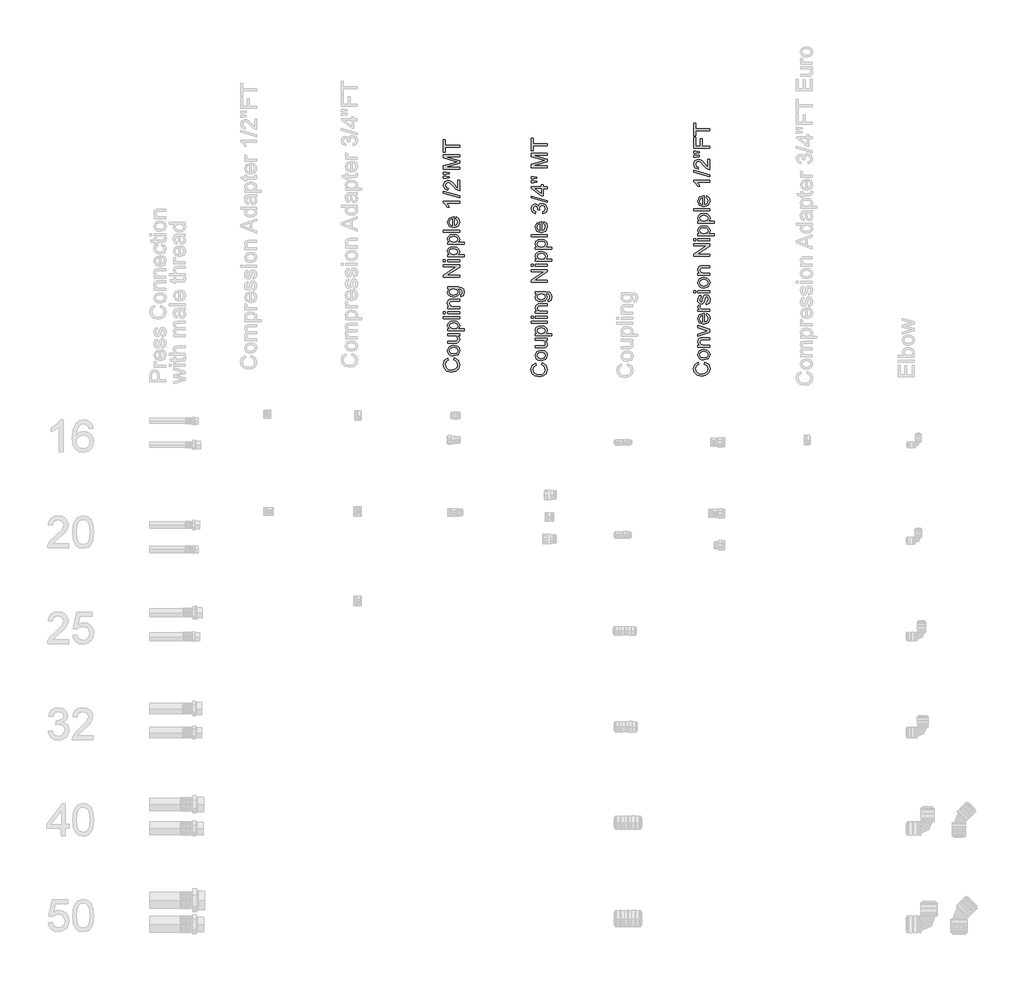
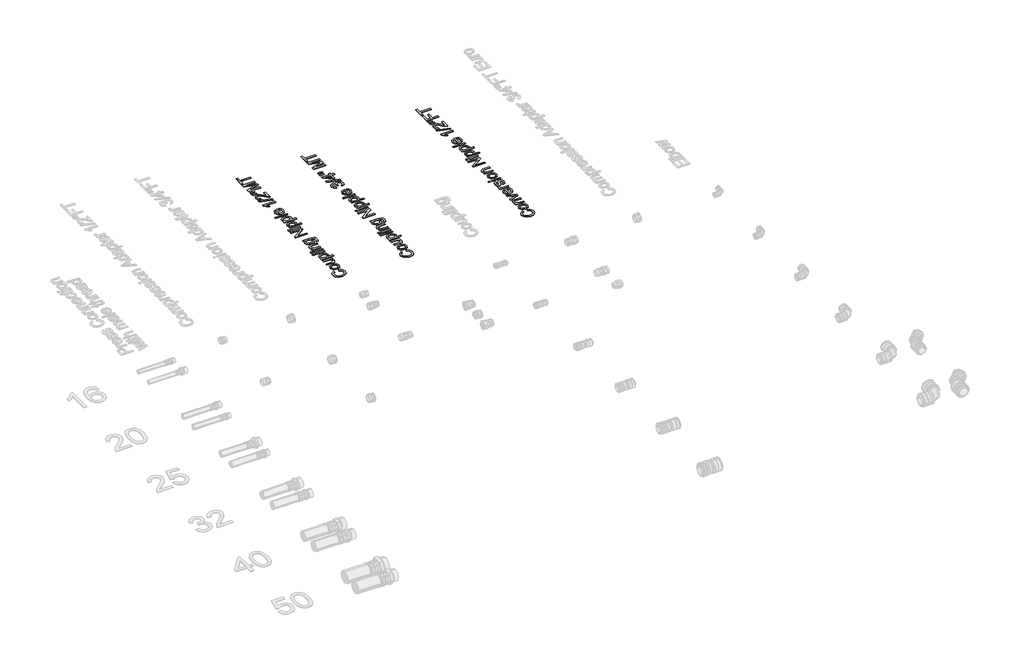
# One storey, part 24 of 26: 3 proxies.
"""IFC4 building model written with IfcOpenShell, lengths in millimetres."""

from ifc_helpers import new_model, si_unit, origin, origin_with_axes, place, context, project, spatial, polyline, outline, extrude, element, save

model = new_model("IFC4")

# Units and contexts
model_context = context("Model", 3, world=origin())
ifc_project = project(units=[si_unit("LENGTHUNIT", "METRE", prefix="MILLI")], contexts=[model_context])

# Site, building, storey
site = spatial("IfcSite", under=ifc_project)
building = spatial("IfcBuilding", under=site)
storey = spatial("IfcBuildingStorey", under=building, Name="Superpipe UFH", Elevation=0.0)

# Proxies
placement = place(None, origin())
element("IfcBuildingElementProxy", 1, Name="50mm Arial", ObjectType="50mm Arial", at=placement, inside=storey, context=model_context, shape_type="SweptSolid", body=[
    extrude(outline(polyline([(26667.4647613, 32461.4412402), (26669.083442, 32467.7197596), (26681.744714, 32460.2762805), (26686.1041157, 32447.1306306), (26682.8054405, 32434.0646884), (26673.2527713, 32426.4004801), (26659.8250785, 32423.7701239), (26646.1766565, 32426.7438367), (26637.3290945, 32435.1989912), (26634.3063308, 32447.2655206), (26638.2181427, 32459.8409535), (26649.230077, 32466.9349446), (26650.7261305, 32460.6564253), (26643.00674, 32455.5060773), (26640.5848502, 32447.020266), (26643.2703887, 32437.1978167), (26650.4808758, 32431.6489299), (26659.8128158, 32430.0486433), (26670.6285464, 32431.9432355), (26677.5385966, 32437.8416102), (26679.8255963, 32446.5052312), (26676.7108621, 32456.1130826), (26667.4647613, 32461.4412402)])), origin_with_axes(), (0.0, 0.0, 1.0), 2.0),
    extrude(outline(polyline([(26666.8761501, 32473.998279), (26657.9826028, 32475.3563766), (26651.7316746, 32479.4306697), (26647.6481845, 32490.4916551), (26652.6207228, 32502.3558494), (26666.3611153, 32506.9605057), (26677.5324652, 32504.924892), (26683.8539042, 32498.9958605), (26686.1041157, 32490.4916551), (26681.1499715, 32478.5538843), (26666.8761501, 32473.998279)]), holes=[polyline([(26666.8638873, 32480.2767983), (26676.5943661, 32483.1830661), (26679.8255963, 32490.4916551), (26676.575972, 32497.7757186), (26666.6676836, 32500.6819863), (26657.157934, 32497.7573245), (26653.9267038, 32490.4916551), (26657.1456713, 32483.1830661), (26666.8638873, 32480.2767983)])]), origin_with_axes(), (0.0, 0.0, 1.0), 2.0),
    extrude(outline(polyline([(26685.3193008, 32537.5682877), (26678.9794677, 32537.5682877), (26684.3229537, 32532.6509317), (26686.1041157, 32526.2375223), (26684.8533169, 32520.3330162), (26681.7140572, 32516.2617888), (26677.0910068, 32514.391722), (26671.2539458, 32514.02384), (26648.4329994, 32514.02384), (26648.4329994, 32520.3023594), (26668.2986271, 32520.3023594), (26674.6997738, 32520.6825041), (26678.4583016, 32523.1657076), (26679.8255963, 32527.8439403), (26678.4276447, 32533.0862587), (26674.6200661, 32536.5504809), (26667.6241768, 32537.5682877), (26648.4329994, 32537.5682877), (26648.4329994, 32543.8468071), (26685.3193008, 32543.8468071), (26685.3193008, 32537.5682877)])), origin_with_axes(), (0.0, 0.0, 1.0), 2.0),
    extrude(outline(polyline([(26699.4459694, 32552.4797713), (26648.4329994, 32552.4797713), (26648.4329994, 32558.7582906), (26654.5888914, 32558.7582906), (26649.3833612, 32563.0992982), (26647.6481845, 32568.9608846), (26650.0762056, 32576.9193985), (26656.9188107, 32582.1187973), (26666.5941072, 32583.8723682), (26676.7660444, 32581.8919368), (26683.6944886, 32576.1407149), (26686.1041157, 32568.2005952), (26684.4915663, 32562.7375476), (26680.4142075, 32558.7582906), (26699.4459694, 32558.7582906), (26699.4459694, 32552.4797713)]), holes=[polyline([(26667.1704557, 32558.7582906), (26676.7353875, 32561.474486), (26679.8255963, 32568.0657051), (26676.625023, 32574.7918143), (26666.7044718, 32577.5938488), (26657.1150145, 32574.8592593), (26653.9267038, 32568.3232225), (26657.3173496, 32561.658427), (26667.1704557, 32558.7582906)])]), origin_with_axes(), (0.0, 0.0, 1.0), 2.0),
    extrude(outline(polyline([(26685.3193008, 32590.9357025), (26635.0911457, 32590.9357025), (26635.0911457, 32597.2142219), (26685.3193008, 32597.2142219), (26685.3193008, 32590.9357025)])), origin_with_axes(), (0.0, 0.0, 1.0), 2.0),
    extrude(outline(polyline([(26641.3696651, 32606.6320009), (26635.0911457, 32606.6320009), (26635.0911457, 32612.9105203), (26641.3696651, 32612.9105203), (26641.3696651, 32606.6320009)])), origin_with_axes(), (0.0, 0.0, 1.0), 2.0),
    extrude(outline(polyline([(26685.3193008, 32606.6320009), (26648.4329994, 32606.6320009), (26648.4329994, 32612.9105203), (26685.3193008, 32612.9105203), (26685.3193008, 32606.6320009)])), origin_with_axes(), (0.0, 0.0, 1.0), 2.0),
    extrude(outline(polyline([(26685.3193008, 32622.3282994), (26648.4329994, 32622.3282994), (26648.4329994, 32628.6068188), (26653.5833473, 32628.6068188), (26649.1319752, 32633.4076788), (26647.6481845, 32639.9621097), (26648.8438009, 32645.8911412), (26651.9830606, 32649.9378431), (26656.5999797, 32651.8201727), (26662.6700326, 32652.1512665), (26685.3193008, 32652.1512665), (26685.3193008, 32645.8727471), (26663.5161612, 32645.8727471), (26657.9611431, 32645.1492458), (26655.0242185, 32642.592466), (26653.9267038, 32638.2821153), (26656.3915132, 32631.470167), (26665.7479786, 32628.6068188), (26685.3193008, 32628.6068188), (26685.3193008, 32622.3282994)])), origin_with_axes(), (0.0, 0.0, 1.0), 2.0),
    extrude(outline(polyline([(26688.4585605, 32659.2146008), (26689.2433754, 32665.4931202), (26692.5543133, 32667.5287339), (26693.9522649, 32673.6233123), (26692.3703723, 32680.0489844), (26687.9312629, 32683.1146677), (26680.6104112, 32683.5438634), (26685.3193008, 32673.7336769), (26683.9489403, 32667.2604866), (26679.837859, 32662.4335682), (26666.6922091, 32658.4297859), (26656.9617303, 32660.2262763), (26650.0762056, 32665.4256751), (26647.6481845, 32673.4271085), (26653.1418889, 32683.5438634), (26648.4329994, 32683.5438634), (26648.4329994, 32689.8223828), (26680.2793174, 32689.8223828), (26692.4746056, 32688.1056001), (26698.1461197, 32682.667078), (26700.2307843, 32673.5006849), (26697.2938597, 32663.0589676), (26688.4585605, 32659.2146008)]), holes=[polyline([(26666.2630134, 32664.7083053), (26675.9812295, 32667.3877124), (26679.0407814, 32674.1138216), (26675.9996236, 32680.827668), (26666.4469544, 32683.5438634), (26657.0843576, 32680.7479602), (26653.9267038, 32674.0157197), (26657.0353067, 32667.4245006), (26666.2630134, 32664.7083053)])]), origin_with_axes(), (0.0, 0.0, 1.0), 2.0),
    extrude(outline(polyline([(26685.3193008, 32719.6453499), (26635.0911457, 32719.6453499), (26635.0911457, 32726.3653276), (26674.8837148, 32752.6075766), (26635.0911457, 32752.6075766), (26635.0911457, 32758.886096), (26685.3193008, 32758.886096), (26685.3193008, 32752.1661182), (26645.5144689, 32725.9238692), (26685.3193008, 32725.9238692), (26685.3193008, 32719.6453499)])), origin_with_axes(), (0.0, 0.0, 1.0), 2.0),
    extrude(outline(polyline([(26685.3193008, 32769.08869), (26648.4329994, 32769.08869), (26648.4329994, 32775.3672094), (26685.3193008, 32775.3672094), (26685.3193008, 32769.08869)])), origin_with_axes(), (0.0, 0.0, 1.0), 2.0),
    extrude(outline(polyline([(26641.3696651, 32769.08869), (26635.0911457, 32769.08869), (26635.0911457, 32775.3672094), (26641.3696651, 32775.3672094), (26641.3696651, 32769.08869)])), origin_with_axes(), (0.0, 0.0, 1.0), 2.0),
    extrude(outline(polyline([(26699.4459694, 32784.7849885), (26648.4329994, 32784.7849885), (26648.4329994, 32791.0635079), (26654.5888914, 32791.0635079), (26649.3833612, 32795.4045154), (26647.6481845, 32801.2661019), (26650.0762056, 32809.2246157), (26656.9188107, 32814.4240146), (26666.5941072, 32816.1775854), (26676.7660444, 32814.197154), (26683.6944886, 32808.4459321), (26686.1041157, 32800.5058124), (26684.4915663, 32795.0427648), (26680.4142075, 32791.0635079), (26699.4459694, 32791.0635079), (26699.4459694, 32784.7849885)]), holes=[polyline([(26667.1704557, 32791.0635079), (26676.7353875, 32793.7797033), (26679.8255963, 32800.3709223), (26676.625023, 32807.0970315), (26666.7044718, 32809.899066), (26657.1150145, 32807.1644765), (26653.9267038, 32800.6284397), (26657.3173496, 32793.9636443), (26667.1704557, 32791.0635079)])]), origin_with_axes(), (0.0, 0.0, 1.0), 2.0),
    extrude(outline(polyline([(26699.4459694, 32823.2409197), (26648.4329994, 32823.2409197), (26648.4329994, 32829.5194391), (26654.5888914, 32829.5194391), (26649.3833612, 32833.8604466), (26647.6481845, 32839.7220331), (26650.0762056, 32847.6805469), (26656.9188107, 32852.8799458), (26666.5941072, 32854.6335166), (26676.7660444, 32852.6530852), (26683.6944886, 32846.9018634), (26686.1041157, 32838.9617436), (26684.4915663, 32833.498696), (26680.4142075, 32829.5194391), (26699.4459694, 32829.5194391), (26699.4459694, 32823.2409197)]), holes=[polyline([(26667.1704557, 32829.5194391), (26676.7353875, 32832.2356345), (26679.8255963, 32838.8268536), (26676.625023, 32845.5529627), (26666.7044718, 32848.3549972), (26657.1150145, 32845.6204077), (26653.9267038, 32839.084371), (26657.3173496, 32832.4195755), (26667.1704557, 32829.5194391)])]), origin_with_axes(), (0.0, 0.0, 1.0), 2.0),
    extrude(outline(polyline([(26685.3193008, 32861.6968509), (26635.0911457, 32861.6968509), (26635.0911457, 32867.9753703), (26685.3193008, 32867.9753703), (26685.3193008, 32861.6968509)])), origin_with_axes(), (0.0, 0.0, 1.0), 2.0),
    extrude(outline(polyline([(26674.3318918, 32903.2184655), (26675.1167068, 32909.3743575), (26683.2223734, 32903.6170043), (26686.1041157, 32892.8932441), (26681.1315774, 32879.8579588), (26667.1827184, 32875.0387046), (26652.7740069, 32879.9070097), (26647.6481845, 32892.5376249), (26652.7617442, 32904.8064894), (26667.1459302, 32909.5705612), (26668.8381874, 32909.533773), (26668.8381874, 32881.317224), (26676.9929049, 32884.9285989), (26679.8255963, 32893.0158715), (26678.5134839, 32899.1717635), (26674.3318918, 32903.2184655)]), holes=[polyline([(26662.559668, 32881.317224), (26662.559668, 32903.2920419), (26656.8697598, 32900.7781816), (26653.9267038, 32892.5130994), (26656.2750173, 32884.7814461), (26662.559668, 32881.317224)])]), origin_with_axes(), (0.0, 0.0, 1.0), 2.0),
    extrude(outline(polyline([(26685.3193008, 32957.4442715), (26685.3193008, 32951.1657522), (26646.1766565, 32951.1657522), (26650.4134308, 32945.2183266), (26653.5833473, 32938.6087134), (26647.6481845, 32938.6087134), (26641.7743353, 32947.8118946), (26635.0911457, 32953.3975696), (26635.0911457, 32957.4442715), (26685.3193008, 32957.4442715)])), origin_with_axes(), (0.0, 0.0, 1.0), 2.0),
    extrude(outline(polyline([(26685.3193008, 32969.2164954), (26635.0911457, 32983.343164), (26635.0911457, 32989.0085467), (26685.3193008, 32974.8818781), (26685.3193008, 32969.2164954)])), origin_with_axes(), (0.0, 0.0, 1.0), 2.0),
    extrude(outline(polyline([(26679.0407814, 33024.15354), (26685.3193008, 33024.15354), (26685.3193008, 32991.1913132), (26680.990556, 32991.8657636), (26674.3257605, 32995.6794736), (26667.0478283, 33003.5398855), (26656.5877169, 33014.3801417), (26649.4753317, 33017.0902057), (26643.7179785, 33014.5334258), (26641.3696651, 33007.8563676), (26643.6627962, 33000.8972665), (26650.0026292, 32998.2546475), (26649.2178143, 32991.9761282), (26638.708652, 32996.7892509), (26635.0911457, 33007.9912577), (26639.1133222, 33019.2300526), (26649.095187, 33023.3687251), (26655.0487439, 33022.2528164), (26661.204636, 33018.5433396), (26669.8069433, 33009.5486248), (26675.8463394, 33002.325875), (26679.0407814, 32999.4931836), (26679.0407814, 33024.15354)])), origin_with_axes(), (0.0, 0.0, 1.0), 2.0),
    extrude(outline(polyline([(26653.1418889, 33044.4851516), (26643.442067, 33042.9890982), (26635.0911457, 33042.9890982), (26635.0911457, 33049.2676175), (26643.442067, 33049.2676175), (26653.1418889, 33047.7960896), (26653.1418889, 33044.4851516)])), origin_with_axes(), (0.0, 0.0, 1.0), 2.0),
    extrude(outline(polyline([(26653.1418889, 33031.964901), (26643.442067, 33030.4320594), (26635.0911457, 33030.4320594), (26635.0911457, 33036.7105788), (26643.442067, 33036.7105788), (26653.1418889, 33035.3371527), (26653.1418889, 33031.964901)])), origin_with_axes(), (0.0, 0.0, 1.0), 2.0),
    extrude(outline(polyline([(26685.3193008, 33057.9005817), (26635.0911457, 33057.9005817), (26635.0911457, 33068.7040496), (26670.4936564, 33078.98022), (26677.8880845, 33081.0526219), (26669.8805197, 33083.2967021), (26635.0911457, 33093.4011942), (26635.0911457, 33104.2046622), (26685.3193008, 33104.2046622), (26685.3193008, 33097.9261428), (26641.3696651, 33097.9261428), (26685.3193008, 33085.3077903), (26685.3193008, 33076.7974535), (26641.3696651, 33064.1791011), (26685.3193008, 33064.1791011), (26685.3193008, 33057.9005817)])), origin_with_axes(), (0.0, 0.0, 1.0), 2.0),
    extrude(outline(polyline([(26685.3193008, 33127.7491098), (26641.3696651, 33127.7491098), (26641.3696651, 33111.2679965), (26635.0911457, 33111.2679965), (26635.0911457, 33150.5087426), (26641.3696651, 33150.5087426), (26641.3696651, 33134.0276292), (26685.3193008, 33134.0276292), (26685.3193008, 33127.7491098)])), origin_with_axes(), (0.0, 0.0, 1.0), 2.0),
])
element("IfcBuildingElementProxy", 2, Name="50mm Arial", ObjectType="50mm Arial", at=placement, inside=storey, context=model_context, shape_type="SweptSolid", body=[
    extrude(outline(polyline([(26941.8824825, 32446.4721905), (26943.5011632, 32452.7507099), (26956.1624352, 32445.3072309), (26960.5218369, 32432.1615809), (26957.2231617, 32419.0956387), (26947.6704925, 32411.4314305), (26934.2427997, 32408.8010742), (26920.5943777, 32411.774787), (26911.7468157, 32420.2299415), (26908.724052, 32432.296471), (26912.6358638, 32444.8719038), (26923.6477982, 32451.965895), (26925.1438517, 32445.6873756), (26917.4244611, 32440.5370277), (26915.0025713, 32432.0512163), (26917.6881099, 32422.228767), (26924.898597, 32416.6798803), (26934.230537, 32415.0795936), (26945.0462676, 32416.9741859), (26951.9563178, 32422.8725605), (26954.2433175, 32431.5361815), (26951.1285833, 32441.144033), (26941.8824825, 32446.4721905)])), origin_with_axes(), (0.0, 0.0, 1.0), 2.0),
    extrude(outline(polyline([(26941.2938713, 32459.0292293), (26932.400324, 32460.387327), (26926.1493958, 32464.4616201), (26922.0659056, 32475.5226054), (26927.0384439, 32487.3867998), (26940.7788365, 32491.9914561), (26951.9501864, 32489.9558424), (26958.2716253, 32484.0268109), (26960.5218369, 32475.5226054), (26955.5676927, 32463.5848347), (26941.2938713, 32459.0292293)]), holes=[polyline([(26941.2816085, 32465.3077487), (26951.0120873, 32468.2140164), (26954.2433175, 32475.5226054), (26950.9936932, 32482.8066689), (26941.0854048, 32485.7129367), (26931.5756552, 32482.7882748), (26928.344425, 32475.5226054), (26931.5633925, 32468.2140164), (26941.2816085, 32465.3077487)])]), origin_with_axes(), (0.0, 0.0, 1.0), 2.0),
    extrude(outline(polyline([(26959.737022, 32522.5992381), (26953.3971889, 32522.5992381), (26958.7406749, 32517.6818821), (26960.5218369, 32511.2684726), (26959.2710381, 32505.3639666), (26956.1317784, 32501.2927392), (26951.508728, 32499.4226724), (26945.671667, 32499.0547904), (26922.8507206, 32499.0547904), (26922.8507206, 32505.3333098), (26942.7163483, 32505.3333098), (26949.117495, 32505.7134545), (26952.8760227, 32508.196658), (26954.2433175, 32512.8748907), (26952.8453659, 32518.1172091), (26949.0377873, 32521.5814312), (26942.041898, 32522.5992381), (26922.8507206, 32522.5992381), (26922.8507206, 32528.8777574), (26959.737022, 32528.8777574), (26959.737022, 32522.5992381)])), origin_with_axes(), (0.0, 0.0, 1.0), 2.0),
    extrude(outline(polyline([(26973.8636906, 32537.5107216), (26922.8507206, 32537.5107216), (26922.8507206, 32543.789241), (26929.0066126, 32543.789241), (26923.8010824, 32548.1302485), (26922.0659056, 32553.991835), (26924.4939268, 32561.9503488), (26931.3365319, 32567.1497477), (26941.0118284, 32568.9033185), (26951.1837656, 32566.9228871), (26958.1122098, 32561.1716653), (26960.5218369, 32553.2315455), (26958.9092875, 32547.7684979), (26954.8319287, 32543.789241), (26973.8636906, 32543.789241), (26973.8636906, 32537.5107216)]), holes=[polyline([(26941.5881769, 32543.789241), (26951.1531087, 32546.5054364), (26954.2433175, 32553.0966555), (26951.0427441, 32559.8227646), (26941.122193, 32562.6247991), (26931.5327357, 32559.8902096), (26928.344425, 32553.3541729), (26931.7350708, 32546.6893774), (26941.5881769, 32543.789241)])]), origin_with_axes(), (0.0, 0.0, 1.0), 2.0),
    extrude(outline(polyline([(26959.737022, 32575.9666528), (26909.5088669, 32575.9666528), (26909.5088669, 32582.2451722), (26959.737022, 32582.2451722), (26959.737022, 32575.9666528)])), origin_with_axes(), (0.0, 0.0, 1.0), 2.0),
    extrude(outline(polyline([(26915.7873863, 32591.6629513), (26909.5088669, 32591.6629513), (26909.5088669, 32597.9414707), (26915.7873863, 32597.9414707), (26915.7873863, 32591.6629513)])), origin_with_axes(), (0.0, 0.0, 1.0), 2.0),
    extrude(outline(polyline([(26959.737022, 32591.6629513), (26922.8507206, 32591.6629513), (26922.8507206, 32597.9414707), (26959.737022, 32597.9414707), (26959.737022, 32591.6629513)])), origin_with_axes(), (0.0, 0.0, 1.0), 2.0),
    extrude(outline(polyline([(26959.737022, 32607.3592498), (26922.8507206, 32607.3592498), (26922.8507206, 32613.6377691), (26928.0010685, 32613.6377691), (26923.5496964, 32618.4386292), (26922.0659056, 32624.9930601), (26923.2615221, 32630.9220915), (26926.4007818, 32634.9687935), (26931.0177009, 32636.851123), (26937.0877538, 32637.1822168), (26959.737022, 32637.1822168), (26959.737022, 32630.9036974), (26937.9338824, 32630.9036974), (26932.3788642, 32630.1801962), (26929.4419396, 32627.6234163), (26928.344425, 32623.3130656), (26930.8092344, 32616.5011173), (26940.1656998, 32613.6377691), (26959.737022, 32613.6377691), (26959.737022, 32607.3592498)])), origin_with_axes(), (0.0, 0.0, 1.0), 2.0),
    extrude(outline(polyline([(26962.8762816, 32644.2455511), (26963.6610966, 32650.5240705), (26966.9720345, 32652.5596842), (26968.3699861, 32658.6542626), (26966.7880935, 32665.0799348), (26962.3489841, 32668.1456181), (26955.0281324, 32668.5748137), (26959.737022, 32658.7646272), (26958.3666615, 32652.2914369), (26954.2555802, 32647.4645186), (26941.1099303, 32643.4607362), (26931.3794515, 32645.2572266), (26924.4939268, 32650.4566255), (26922.0659056, 32658.4580589), (26927.5596101, 32668.5748137), (26922.8507206, 32668.5748137), (26922.8507206, 32674.8533331), (26954.6970386, 32674.8533331), (26966.8923268, 32673.1365505), (26972.5638409, 32667.6980283), (26974.6485055, 32658.5316353), (26971.7115809, 32648.089918), (26962.8762816, 32644.2455511)]), holes=[polyline([(26940.6807346, 32649.7392556), (26950.3989506, 32652.4186628), (26953.4585026, 32659.1447719), (26950.4173447, 32665.8586184), (26940.8646756, 32668.5748137), (26931.5020788, 32665.7789106), (26928.344425, 32659.0466701), (26931.4530279, 32652.455451), (26940.6807346, 32649.7392556)])]), origin_with_axes(), (0.0, 0.0, 1.0), 2.0),
    extrude(outline(polyline([(26959.737022, 32704.6763002), (26909.5088669, 32704.6763002), (26909.5088669, 32711.396278), (26949.301436, 32737.638527), (26909.5088669, 32737.638527), (26909.5088669, 32743.9170464), (26959.737022, 32743.9170464), (26959.737022, 32737.1970686), (26919.9321901, 32710.9548196), (26959.737022, 32710.9548196), (26959.737022, 32704.6763002)])), origin_with_axes(), (0.0, 0.0, 1.0), 2.0),
    extrude(outline(polyline([(26959.737022, 32754.1196404), (26922.8507206, 32754.1196404), (26922.8507206, 32760.3981597), (26959.737022, 32760.3981597), (26959.737022, 32754.1196404)])), origin_with_axes(), (0.0, 0.0, 1.0), 2.0),
    extrude(outline(polyline([(26915.7873863, 32754.1196404), (26909.5088669, 32754.1196404), (26909.5088669, 32760.3981597), (26915.7873863, 32760.3981597), (26915.7873863, 32754.1196404)])), origin_with_axes(), (0.0, 0.0, 1.0), 2.0),
    extrude(outline(polyline([(26973.8636906, 32769.8159388), (26922.8507206, 32769.8159388), (26922.8507206, 32776.0944582), (26929.0066126, 32776.0944582), (26923.8010824, 32780.4354657), (26922.0659056, 32786.2970522), (26924.4939268, 32794.255566), (26931.3365319, 32799.4549649), (26941.0118284, 32801.2085357), (26951.1837656, 32799.2281043), (26958.1122098, 32793.4768825), (26960.5218369, 32785.5367627), (26958.9092875, 32780.0737151), (26954.8319287, 32776.0944582), (26973.8636906, 32776.0944582), (26973.8636906, 32769.8159388)]), holes=[polyline([(26941.5881769, 32776.0944582), (26951.1531087, 32778.8106536), (26954.2433175, 32785.4018727), (26951.0427441, 32792.1279818), (26941.122193, 32794.9300164), (26931.5327357, 32792.1954269), (26928.344425, 32785.6593901), (26931.7350708, 32778.9945946), (26941.5881769, 32776.0944582)])]), origin_with_axes(), (0.0, 0.0, 1.0), 2.0),
    extrude(outline(polyline([(26973.8636906, 32808.2718701), (26922.8507206, 32808.2718701), (26922.8507206, 32814.5503894), (26929.0066126, 32814.5503894), (26923.8010824, 32818.891397), (26922.0659056, 32824.7529834), (26924.4939268, 32832.7114973), (26931.3365319, 32837.9108961), (26941.0118284, 32839.664467), (26951.1837656, 32837.6840356), (26958.1122098, 32831.9328137), (26960.5218369, 32823.992694), (26958.9092875, 32818.5296463), (26954.8319287, 32814.5503894), (26973.8636906, 32814.5503894), (26973.8636906, 32808.2718701)]), holes=[polyline([(26941.5881769, 32814.5503894), (26951.1531087, 32817.2665848), (26954.2433175, 32823.8578039), (26951.0427441, 32830.5839131), (26941.122193, 32833.3859476), (26931.5327357, 32830.6513581), (26928.344425, 32824.1153213), (26931.7350708, 32817.4505258), (26941.5881769, 32814.5503894)])]), origin_with_axes(), (0.0, 0.0, 1.0), 2.0),
    extrude(outline(polyline([(26959.737022, 32846.7278013), (26909.5088669, 32846.7278013), (26909.5088669, 32853.0063207), (26959.737022, 32853.0063207), (26959.737022, 32846.7278013)])), origin_with_axes(), (0.0, 0.0, 1.0), 2.0),
    extrude(outline(polyline([(26948.749613, 32888.2494158), (26949.534428, 32894.4053079), (26957.6400946, 32888.6479546), (26960.5218369, 32877.9241945), (26955.5492986, 32864.8889091), (26941.6004396, 32860.069655), (26927.1917281, 32864.93796), (26922.0659056, 32877.5685752), (26927.1794654, 32889.8374397), (26941.5636514, 32894.6015116), (26943.2559086, 32894.5647234), (26943.2559086, 32866.3481744), (26951.4106261, 32869.9595493), (26954.2433175, 32878.0468218), (26952.931205, 32884.2027139), (26948.749613, 32888.2494158)]), holes=[polyline([(26936.9773892, 32866.3481744), (26936.9773892, 32888.3229922), (26931.287481, 32885.8091319), (26928.344425, 32877.5440497), (26930.6927384, 32869.8123965), (26936.9773892, 32866.3481744)])]), origin_with_axes(), (0.0, 0.0, 1.0), 2.0),
    extrude(outline(polyline([(26946.3951683, 32918.9307742), (26945.6103533, 32925.2092936), (26952.2199665, 32928.6735157), (26954.2433175, 32935.1543702), (26951.4596771, 32942.7817902), (26944.568021, 32945.6144816), (26938.0749038, 32942.8063157), (26935.5058612, 32935.669405), (26936.1925743, 32931.2670838), (26929.9140549, 32931.9660596), (26928.1850095, 32940.0962517), (26922.6422541, 32943.2600368), (26917.7310295, 32940.9669057), (26915.7873863, 32935.0562683), (26917.7494236, 32929.0720545), (26923.6355355, 32925.9941085), (26922.8507206, 32919.7155891), (26913.0037458, 32924.8536743), (26909.5088669, 32934.8355391), (26911.2317809, 32942.4077769), (26915.9406704, 32947.7052776), (26922.2743721, 32949.5385562), (26928.0623822, 32947.7972481), (26932.2194487, 32942.6469002), (26936.5114053, 32949.4895053), (26944.6783856, 32951.893001), (26955.9110492, 32947.0860096), (26960.5218369, 32934.933641), (26956.5854995, 32923.9217066), (26946.3951683, 32918.9307742)])), origin_with_axes(), (0.0, 0.0, 1.0), 2.0),
    extrude(outline(polyline([(26959.737022, 32954.2474457), (26909.5088669, 32968.3741144), (26909.5088669, 32974.0394971), (26959.737022, 32959.9128285), (26959.737022, 32954.2474457)])), origin_with_axes(), (0.0, 0.0, 1.0), 2.0),
    extrude(outline(polyline([(26959.737022, 32997.4122665), (26947.9647981, 32997.4122665), (26947.9647981, 32974.6526337), (26941.6862787, 32974.6526337), (26910.2936818, 32998.9818963), (26910.2936818, 33003.6907859), (26941.6862787, 33003.6907859), (26941.6862787, 33009.9693053), (26947.9647981, 33009.9693053), (26947.9647981, 33003.6907859), (26959.737022, 33003.6907859), (26959.737022, 32997.4122665)]), holes=[polyline([(26941.6862787, 32997.4122665), (26922.2866348, 32997.4122665), (26941.6862787, 32982.3781556), (26941.6862787, 32997.4122665)])]), origin_with_axes(), (0.0, 0.0, 1.0), 2.0),
    extrude(outline(polyline([(26927.5596101, 33016.9958514), (26917.8597882, 33015.4630097), (26909.5088669, 33015.4630097), (26909.5088669, 33021.7415291), (26917.8597882, 33021.7415291), (26927.5596101, 33020.368103), (26927.5596101, 33016.9958514)])), origin_with_axes(), (0.0, 0.0, 1.0), 2.0),
    extrude(outline(polyline([(26927.5596101, 33029.5161019), (26917.8597882, 33028.0200485), (26909.5088669, 33028.0200485), (26909.5088669, 33034.2985679), (26917.8597882, 33034.2985679), (26927.5596101, 33032.8270399), (26927.5596101, 33029.5161019)])), origin_with_axes(), (0.0, 0.0, 1.0), 2.0),
    extrude(outline(polyline([(26959.737022, 33062.5519051), (26909.5088669, 33062.5519051), (26909.5088669, 33073.355373), (26944.9113775, 33083.6315434), (26952.3058056, 33085.7039453), (26944.2982409, 33087.9480255), (26909.5088669, 33098.0525177), (26909.5088669, 33108.8559856), (26959.737022, 33108.8559856), (26959.737022, 33102.5774662), (26915.7873863, 33102.5774662), (26959.737022, 33089.9591138), (26959.737022, 33081.4487769), (26915.7873863, 33068.8304245), (26959.737022, 33068.8304245), (26959.737022, 33062.5519051)])), origin_with_axes(), (0.0, 0.0, 1.0), 2.0),
    extrude(outline(polyline([(26959.737022, 33132.4004333), (26915.7873863, 33132.4004333), (26915.7873863, 33115.9193199), (26909.5088669, 33115.9193199), (26909.5088669, 33155.160066), (26915.7873863, 33155.160066), (26915.7873863, 33138.6789527), (26959.737022, 33138.6789527), (26959.737022, 33132.4004333)])), origin_with_axes(), (0.0, 0.0, 1.0), 2.0),
])
element("IfcBuildingElementProxy", 3, Name="50mm Arial", ObjectType="50mm Arial", at=placement, inside=storey, context=model_context, shape_type="SweptSolid", body=[
    extrude(outline(polyline([(27450.4431051, 32448.8322815), (27452.0617859, 32455.1108008), (27464.7230579, 32447.6673218), (27469.0824595, 32434.5216718), (27465.7837843, 32421.4557296), (27456.2311151, 32413.7915214), (27442.8034223, 32411.1611651), (27429.1550003, 32414.1348779), (27420.3074383, 32422.5900325), (27417.2846746, 32434.6565619), (27421.1964865, 32447.2319948), (27432.2084209, 32454.3259859), (27433.7044743, 32448.0474665), (27425.9850838, 32442.8971186), (27423.563194, 32434.4113072), (27426.2487325, 32424.588858), (27433.4592196, 32419.0399712), (27442.7911596, 32417.4396845), (27453.6068902, 32419.3342768), (27460.5169404, 32425.2326515), (27462.8039401, 32433.8962724), (27459.6892059, 32443.5041239), (27450.4431051, 32448.8322815)])), origin_with_axes(), (0.0, 0.0, 1.0), 2.0),
    extrude(outline(polyline([(27449.8544939, 32461.3893202), (27440.9609467, 32462.7474179), (27434.7100184, 32466.821711), (27430.6265283, 32477.8826963), (27435.5990666, 32489.7468907), (27449.3394591, 32494.351547), (27460.510809, 32492.3159333), (27466.832248, 32486.3869018), (27469.0824595, 32477.8826963), (27464.1283153, 32465.9449256), (27449.8544939, 32461.3893202)]), holes=[polyline([(27449.8422312, 32467.6678396), (27459.5727099, 32470.5741074), (27462.8039401, 32477.8826963), (27459.5543158, 32485.1667598), (27449.6460274, 32488.0730276), (27440.1362779, 32485.1483657), (27436.9050477, 32477.8826963), (27440.1240151, 32470.5741074), (27449.8422312, 32467.6678396)])]), origin_with_axes(), (0.0, 0.0, 1.0), 2.0),
    extrude(outline(polyline([(27468.2976446, 32501.4148813), (27431.4113432, 32501.4148813), (27431.4113432, 32507.6934007), (27436.5616911, 32507.6934007), (27432.110319, 32512.4942607), (27430.6265283, 32519.0486916), (27431.8221448, 32524.9777231), (27434.9614045, 32529.024425), (27439.5783235, 32530.9067546), (27445.6483764, 32531.2378484), (27468.2976446, 32531.2378484), (27468.2976446, 32524.959329), (27446.494505, 32524.959329), (27440.9394869, 32524.2358277), (27438.0025623, 32521.6790479), (27436.9050477, 32517.3686972), (27439.369857, 32510.5567489), (27448.7263224, 32507.6934007), (27468.2976446, 32507.6934007), (27468.2976446, 32501.4148813)])), origin_with_axes(), (0.0, 0.0, 1.0), 2.0),
    extrude(outline(polyline([(27468.2976446, 32548.9207096), (27431.4113432, 32535.9467379), (27431.4113432, 32542.5931393), (27453.5087884, 32550.4535513), (27460.9400047, 32552.8202588), (27453.9257213, 32555.1379153), (27431.4113432, 32563.0473782), (27431.4113432, 32569.6937796), (27468.2976446, 32556.8792234), (27468.2976446, 32548.9207096)])), origin_with_axes(), (0.0, 0.0, 1.0), 2.0),
    extrude(outline(polyline([(27457.3102357, 32601.0128001), (27458.0950506, 32607.1686922), (27466.2007172, 32601.411339), (27469.0824595, 32590.6875788), (27464.1099212, 32577.6522934), (27450.1610622, 32572.8330393), (27435.7523507, 32577.7013444), (27430.6265283, 32590.3319595), (27435.740088, 32602.6008241), (27450.124274, 32607.3648959), (27451.8165312, 32607.3281077), (27451.8165312, 32579.1115587), (27459.9712488, 32582.7229336), (27462.8039401, 32590.8102061), (27461.4918277, 32596.9660982), (27457.3102357, 32601.0128001)]), holes=[polyline([(27445.5380118, 32579.1115587), (27445.5380118, 32601.0863765), (27439.8481036, 32598.5725162), (27436.9050477, 32590.3074341), (27439.2533611, 32582.5757808), (27445.5380118, 32579.1115587)])]), origin_with_axes(), (0.0, 0.0, 1.0), 2.0),
    extrude(outline(polyline([(27468.2976446, 32613.6434153), (27431.4113432, 32613.6434153), (27431.4113432, 32619.1371198), (27436.8682595, 32619.1371198), (27431.8405389, 32623.0366689), (27430.6265283, 32626.9607435), (27432.5640401, 32633.2637884), (27438.1926346, 32631.166861), (27436.9050477, 32626.7522771), (27438.1435837, 32623.2022158), (27441.577149, 32620.9397415), (27448.9102634, 32619.9219347), (27468.2976446, 32619.9219347), (27468.2976446, 32613.6434153)])), origin_with_axes(), (0.0, 0.0, 1.0), 2.0),
    extrude(outline(polyline([(27457.3102357, 32634.8334182), (27456.5254207, 32641.1119376), (27461.1852593, 32644.0182054), (27462.8039401, 32650.6768695), (27461.3201494, 32657.0780162), (27457.8375332, 32659.1626808), (27455.0171046, 32657.0657535), (27453.2267455, 32650.6032931), (27450.1549309, 32641.1487258), (27446.5680814, 32637.0223161), (27441.5035726, 32635.6182331), (27436.8253399, 32636.7464046), (27433.2507532, 32639.8243506), (27431.3929491, 32643.8158703), (27430.6265283, 32649.2176042), (27431.858933, 32656.857287), (27435.1943964, 32661.7133293), (27440.8291223, 32663.8715704), (27441.6139372, 32657.593051), (27438.1497151, 32655.2324748), (27436.9050477, 32649.7081136), (27438.0945328, 32643.6993743), (27440.8659105, 32641.8967525), (27442.6930577, 32642.6447792), (27444.0787466, 32644.9869613), (27445.4153845, 32650.3948266), (27448.3707032, 32659.6102706), (27451.7184293, 32663.8899645), (27457.1753456, 32665.4412002), (27463.1840849, 32663.6201843), (27467.5434865, 32658.3656032), (27469.0824595, 32650.5910303), (27466.1148781, 32639.6404096), (27457.3102357, 32634.8334182)])), origin_with_axes(), (0.0, 0.0, 1.0), 2.0),
    extrude(outline(polyline([(27468.2976446, 32672.5045345), (27431.4113432, 32672.5045345), (27431.4113432, 32678.7830539), (27468.2976446, 32678.7830539), (27468.2976446, 32672.5045345)])), origin_with_axes(), (0.0, 0.0, 1.0), 2.0),
    extrude(outline(polyline([(27424.3480089, 32672.5045345), (27418.0694895, 32672.5045345), (27418.0694895, 32678.7830539), (27424.3480089, 32678.7830539), (27424.3480089, 32672.5045345)])), origin_with_axes(), (0.0, 0.0, 1.0), 2.0),
    extrude(outline(polyline([(27449.8544939, 32686.6312031), (27440.9609467, 32687.9893008), (27434.7100184, 32692.0635939), (27430.6265283, 32703.1245793), (27435.5990666, 32714.9887736), (27449.3394591, 32719.5934299), (27460.510809, 32717.5578162), (27466.832248, 32711.6287847), (27469.0824595, 32703.1245793), (27464.1283153, 32691.1868085), (27449.8544939, 32686.6312031)]), holes=[polyline([(27449.8422312, 32692.9097225), (27459.5727099, 32695.8159903), (27462.8039401, 32703.1245793), (27459.5543158, 32710.4086428), (27449.6460274, 32713.3149105), (27440.1362779, 32710.3902487), (27436.9050477, 32703.1245793), (27440.1240151, 32695.8159903), (27449.8422312, 32692.9097225)])]), origin_with_axes(), (0.0, 0.0, 1.0), 2.0),
    extrude(outline(polyline([(27468.2976446, 32726.6567642), (27431.4113432, 32726.6567642), (27431.4113432, 32732.9352836), (27436.5616911, 32732.9352836), (27432.110319, 32737.7361436), (27430.6265283, 32744.2905745), (27431.8221448, 32750.219606), (27434.9614045, 32754.2663079), (27439.5783235, 32756.1486375), (27445.6483764, 32756.4797313), (27468.2976446, 32756.4797313), (27468.2976446, 32750.2012119), (27446.494505, 32750.2012119), (27440.9394869, 32749.4777106), (27438.0025623, 32746.9209308), (27436.9050477, 32742.6105801), (27439.369857, 32735.7986318), (27448.7263224, 32732.9352836), (27468.2976446, 32732.9352836), (27468.2976446, 32726.6567642)])), origin_with_axes(), (0.0, 0.0, 1.0), 2.0),
    extrude(outline(polyline([(27468.2976446, 32785.5178834), (27418.0694895, 32785.5178834), (27418.0694895, 32792.2378612), (27457.8620587, 32818.4801102), (27418.0694895, 32818.4801102), (27418.0694895, 32824.7586296), (27468.2976446, 32824.7586296), (27468.2976446, 32818.0386518), (27428.4928127, 32791.7964028), (27468.2976446, 32791.7964028), (27468.2976446, 32785.5178834)])), origin_with_axes(), (0.0, 0.0, 1.0), 2.0),
    extrude(outline(polyline([(27468.2976446, 32834.9612236), (27431.4113432, 32834.9612236), (27431.4113432, 32841.239743), (27468.2976446, 32841.239743), (27468.2976446, 32834.9612236)])), origin_with_axes(), (0.0, 0.0, 1.0), 2.0),
    extrude(outline(polyline([(27424.3480089, 32834.9612236), (27418.0694895, 32834.9612236), (27418.0694895, 32841.239743), (27424.3480089, 32841.239743), (27424.3480089, 32834.9612236)])), origin_with_axes(), (0.0, 0.0, 1.0), 2.0),
    extrude(outline(polyline([(27482.4243132, 32850.6575221), (27431.4113432, 32850.6575221), (27431.4113432, 32856.9360414), (27437.5672353, 32856.9360414), (27432.361705, 32861.277049), (27430.6265283, 32867.1386354), (27433.0545494, 32875.0971493), (27439.8971546, 32880.2965481), (27449.572451, 32882.050119), (27459.7443882, 32880.0696876), (27466.6728324, 32874.3184657), (27469.0824595, 32866.378346), (27467.4699101, 32860.9152983), (27463.3925513, 32856.9360414), (27482.4243132, 32856.9360414), (27482.4243132, 32850.6575221)]), holes=[polyline([(27450.1487995, 32856.9360414), (27459.7137314, 32859.6522368), (27462.8039401, 32866.2434559), (27459.6033668, 32872.9695651), (27449.6828156, 32875.7715996), (27440.0933583, 32873.0370101), (27436.9050477, 32866.5009733), (27440.2956934, 32859.8361778), (27450.1487995, 32856.9360414)])]), origin_with_axes(), (0.0, 0.0, 1.0), 2.0),
    extrude(outline(polyline([(27482.4243132, 32889.1134533), (27431.4113432, 32889.1134533), (27431.4113432, 32895.3919727), (27437.5672353, 32895.3919727), (27432.361705, 32899.7329802), (27430.6265283, 32905.5945667), (27433.0545494, 32913.5530805), (27439.8971546, 32918.7524794), (27449.572451, 32920.5060502), (27459.7443882, 32918.5256188), (27466.6728324, 32912.7743969), (27469.0824595, 32904.8342772), (27467.4699101, 32899.3712296), (27463.3925513, 32895.3919727), (27482.4243132, 32895.3919727), (27482.4243132, 32889.1134533)]), holes=[polyline([(27450.1487995, 32895.3919727), (27459.7137314, 32898.1081681), (27462.8039401, 32904.6993871), (27459.6033668, 32911.4254963), (27449.6828156, 32914.2275308), (27440.0933583, 32911.4929413), (27436.9050477, 32904.9569045), (27440.2956934, 32898.2921091), (27450.1487995, 32895.3919727)])]), origin_with_axes(), (0.0, 0.0, 1.0), 2.0),
    extrude(outline(polyline([(27468.2976446, 32927.5693845), (27418.0694895, 32927.5693845), (27418.0694895, 32933.8479039), (27468.2976446, 32933.8479039), (27468.2976446, 32927.5693845)])), origin_with_axes(), (0.0, 0.0, 1.0), 2.0),
    extrude(outline(polyline([(27457.3102357, 32969.090999), (27458.0950506, 32975.2468911), (27466.2007172, 32969.4895379), (27469.0824595, 32958.7657777), (27464.1099212, 32945.7304923), (27450.1610622, 32940.9112382), (27435.7523507, 32945.7795433), (27430.6265283, 32958.4101584), (27435.740088, 32970.679023), (27450.124274, 32975.4430948), (27451.8165312, 32975.4063066), (27451.8165312, 32947.1897576), (27459.9712488, 32950.8011325), (27462.8039401, 32958.888405), (27461.4918277, 32965.0442971), (27457.3102357, 32969.090999)]), holes=[polyline([(27445.5380118, 32947.1897576), (27445.5380118, 32969.1645754), (27439.8481036, 32966.6507151), (27436.9050477, 32958.385633), (27439.2533611, 32950.6539797), (27445.5380118, 32947.1897576)])]), origin_with_axes(), (0.0, 0.0, 1.0), 2.0),
    extrude(outline(polyline([(27468.2976446, 33023.3168051), (27468.2976446, 33017.0382857), (27429.1550003, 33017.0382857), (27433.3917746, 33011.0908601), (27436.5616911, 33004.481247), (27430.6265283, 33004.481247), (27424.7526791, 33013.6844282), (27418.0694895, 33019.2701032), (27418.0694895, 33023.3168051), (27468.2976446, 33023.3168051)])), origin_with_axes(), (0.0, 0.0, 1.0), 2.0),
    extrude(outline(polyline([(27468.2976446, 33035.089029), (27418.0694895, 33049.2156976), (27418.0694895, 33054.8810803), (27468.2976446, 33040.7544117), (27468.2976446, 33035.089029)])), origin_with_axes(), (0.0, 0.0, 1.0), 2.0),
    extrude(outline(polyline([(27462.0191252, 33090.0260736), (27468.2976446, 33090.0260736), (27468.2976446, 33057.0638468), (27463.9688998, 33057.7382971), (27457.3041043, 33061.5520072), (27450.0261722, 33069.4124191), (27439.5660608, 33080.2526752), (27432.4536755, 33082.9627393), (27426.6963223, 33080.4059594), (27424.3480089, 33073.7289012), (27426.64114, 33066.7698001), (27432.980973, 33064.1271811), (27432.1961581, 33057.8486617), (27421.6869958, 33062.6617845), (27418.0694895, 33073.8637913), (27422.091666, 33085.1025862), (27432.0735308, 33089.2412587), (27438.0270877, 33088.1253499), (27444.1829798, 33084.4158732), (27452.7852871, 33075.4211584), (27458.8246832, 33068.1984085), (27462.0191252, 33065.3657172), (27462.0191252, 33090.0260736)])), origin_with_axes(), (0.0, 0.0, 1.0), 2.0),
    extrude(outline(polyline([(27436.1202327, 33110.3576852), (27426.4204108, 33108.8616317), (27418.0694895, 33108.8616317), (27418.0694895, 33115.1401511), (27426.4204108, 33115.1401511), (27436.1202327, 33113.6686231), (27436.1202327, 33110.3576852)])), origin_with_axes(), (0.0, 0.0, 1.0), 2.0),
    extrude(outline(polyline([(27436.1202327, 33097.8374346), (27426.4204108, 33096.304593), (27418.0694895, 33096.304593), (27418.0694895, 33102.5831123), (27426.4204108, 33102.5831123), (27436.1202327, 33101.2096862), (27436.1202327, 33097.8374346)])), origin_with_axes(), (0.0, 0.0, 1.0), 2.0),
    extrude(outline(polyline([(27468.2976446, 33123.7731153), (27418.0694895, 33123.7731153), (27418.0694895, 33157.520157), (27424.3480089, 33157.520157), (27424.3480089, 33130.0516347), (27439.2594924, 33130.0516347), (27439.2594924, 33153.5960823), (27445.5380118, 33153.5960823), (27445.5380118, 33130.0516347), (27468.2976446, 33130.0516347), (27468.2976446, 33123.7731153)])), origin_with_axes(), (0.0, 0.0, 1.0), 2.0),
    extrude(outline(polyline([(27468.2976446, 33178.7101599), (27424.3480089, 33178.7101599), (27424.3480089, 33162.2290465), (27418.0694895, 33162.2290465), (27418.0694895, 33201.4697927), (27424.3480089, 33201.4697927), (27424.3480089, 33184.9886793), (27468.2976446, 33184.9886793), (27468.2976446, 33178.7101599)])), origin_with_axes(), (0.0, 0.0, 1.0), 2.0),
])

save(model, "model.ifc")
